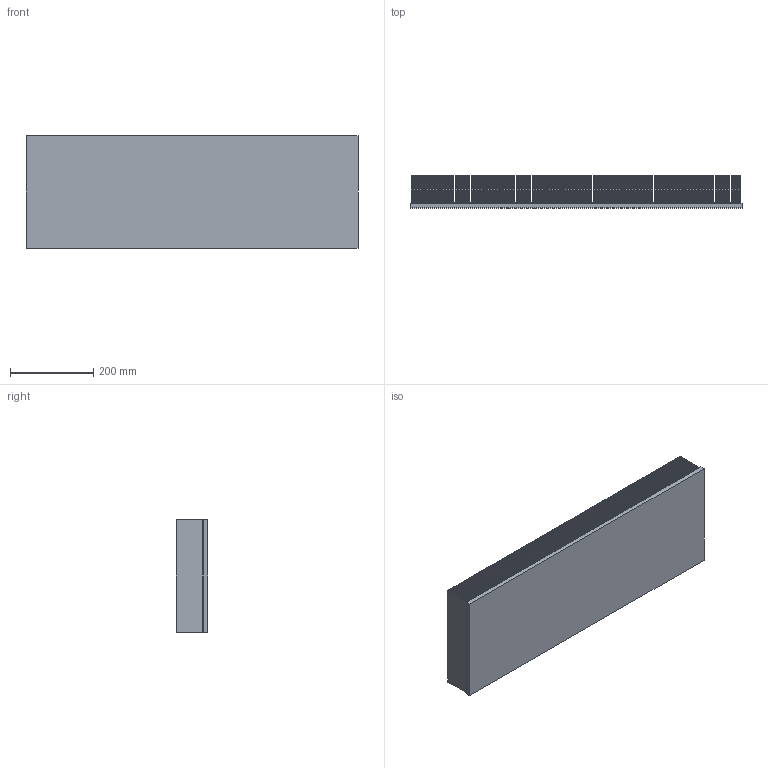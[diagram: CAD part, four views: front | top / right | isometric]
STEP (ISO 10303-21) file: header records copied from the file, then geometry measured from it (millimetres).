
FILE_DESCRIPTION (( 'STEP AP203' ), '1' );
FILE_NAME ('RX616-049-00.STEP', '2026-07-16T07:15:00', ( '' ), ( '' ), 'SwSTEP 2.0', 'SolidWorks 2023', '' );
FILE_SCHEMA (( 'CONFIG_CONTROL_DESIGN' ));
Products named in the file (1): RX616-049-00
Bounding box: 800 x 77 x 270 mm (x, y, z)
Volume: 6438485.3 mm3; surface area: 8728862.3 mm2
Topology: 228 solids, 228 shells, 1822 faces, 4098 edges, 2732 vertices
Faces by surface type: plane 1368, cylinder 454
Entity records: 50173 total; most frequent: CARTESIAN_POINT 8653, DIRECTION 8652, ORIENTED_EDGE 8196, EDGE_CURVE 4098, VECTOR 3190, LINE 3190, VERTEX_POINT 2732, AXIS2_PLACEMENT_3D 2731
